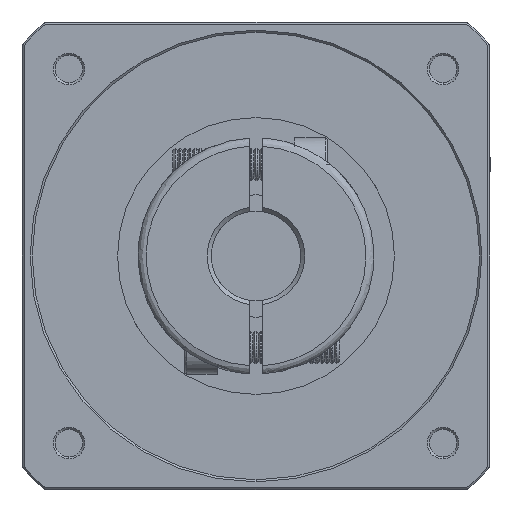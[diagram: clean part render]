
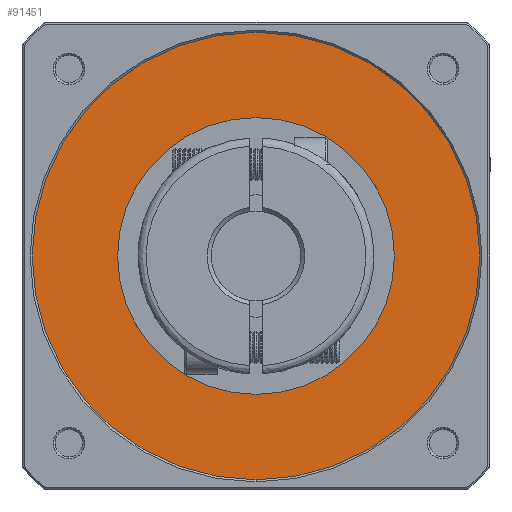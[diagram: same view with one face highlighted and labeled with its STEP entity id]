
A CAD part, front view. The second image highlights one B-rep face of the part: STEP entity #91451.
In plain terms, the highlighted planar face has unit normal (0, 1, 0).
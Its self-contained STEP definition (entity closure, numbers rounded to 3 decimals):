
#1612 = CIRCLE ( 'NONE', #62903, 34. ) ;
#4247 = CARTESIAN_POINT ( 'NONE',  ( 0., -131.611, -34. ) ) ;
#7828 = DIRECTION ( 'NONE',  ( 0., -1., 0. ) ) ;
#8628 = AXIS2_PLACEMENT_3D ( 'NONE', #86205, #39902, #93878 ) ;
#9396 = CARTESIAN_POINT ( 'NONE',  ( 0., -131.611, 0. ) ) ;
#9875 = FACE_BOUND ( 'NONE', #86601, .T. ) ;
#11605 = EDGE_CURVE ( 'NONE', #79057, #74927, #51936, .T. ) ;
#13794 = CARTESIAN_POINT ( 'NONE',  ( 0., -131.611, 0. ) ) ;
#15268 = PLANE ( 'NONE',  #51867 ) ;
#17191 = DIRECTION ( 'NONE',  ( 0., 0., 1. ) ) ;
#18632 = CARTESIAN_POINT ( 'NONE',  ( 0., -131.611, 55. ) ) ;
#21573 = DIRECTION ( 'NONE',  ( 0., 0., 1. ) ) ;
#25039 = AXIS2_PLACEMENT_3D ( 'NONE', #79915, #33670, #87659 ) ;
#27602 = EDGE_CURVE ( 'NONE', #81816, #28158, #51517, .T. ) ;
#28158 = VERTEX_POINT ( 'NONE', #18632 ) ;
#29430 = ORIENTED_EDGE ( 'NONE', *, *, #59959, .T. ) ;
#33670 = DIRECTION ( 'NONE',  ( 0., -1., 0. ) ) ;
#36598 = ORIENTED_EDGE ( 'NONE', *, *, #50314, .F. ) ;
#39902 = DIRECTION ( 'NONE',  ( 0., -1., 0. ) ) ;
#50314 = EDGE_CURVE ( 'NONE', #28158, #81816, #67287, .T. ) ;
#50929 = FACE_OUTER_BOUND ( 'NONE', #69727, .T. ) ;
#51517 = CIRCLE ( 'NONE', #25039, 55. ) ;
#51867 = AXIS2_PLACEMENT_3D ( 'NONE', #54034, #7828, #61821 ) ;
#51936 = CIRCLE ( 'NONE', #98847, 34. ) ;
#54034 = CARTESIAN_POINT ( 'NONE',  ( -55.66, -131.611, -55.66 ) ) ;
#59652 = ORIENTED_EDGE ( 'NONE', *, *, #27602, .F. ) ;
#59959 = EDGE_CURVE ( 'NONE', #74927, #79057, #1612, .T. ) ;
#61821 = DIRECTION ( 'NONE',  ( 1., 0., 0. ) ) ;
#62903 = AXIS2_PLACEMENT_3D ( 'NONE', #9396, #63407, #17191 ) ;
#63407 = DIRECTION ( 'NONE',  ( 0., -1., 0. ) ) ;
#67287 = CIRCLE ( 'NONE', #8628, 55. ) ;
#67783 = DIRECTION ( 'NONE',  ( 0., -1., 0. ) ) ;
#69727 = EDGE_LOOP ( 'NONE', ( #59652, #36598 ) ) ;
#74927 = VERTEX_POINT ( 'NONE', #4247 ) ;
#79057 = VERTEX_POINT ( 'NONE', #80870 ) ;
#79915 = CARTESIAN_POINT ( 'NONE',  ( 0., -131.611, 0. ) ) ;
#80870 = CARTESIAN_POINT ( 'NONE',  ( 0., -131.611, 34. ) ) ;
#81816 = VERTEX_POINT ( 'NONE', #91488 ) ;
#86205 = CARTESIAN_POINT ( 'NONE',  ( 0., -131.611, 0. ) ) ;
#86601 = EDGE_LOOP ( 'NONE', ( #98297, #29430 ) ) ;
#87659 = DIRECTION ( 'NONE',  ( 0., 0., -1. ) ) ;
#91451 = ADVANCED_FACE ( 'NONE', ( #9875, #50929 ), #15268, .F. ) ;
#91488 = CARTESIAN_POINT ( 'NONE',  ( 0., -131.611, -55. ) ) ;
#93878 = DIRECTION ( 'NONE',  ( 0., 0., -1. ) ) ;
#98297 = ORIENTED_EDGE ( 'NONE', *, *, #11605, .T. ) ;
#98847 = AXIS2_PLACEMENT_3D ( 'NONE', #13794, #67783, #21573 ) ;
